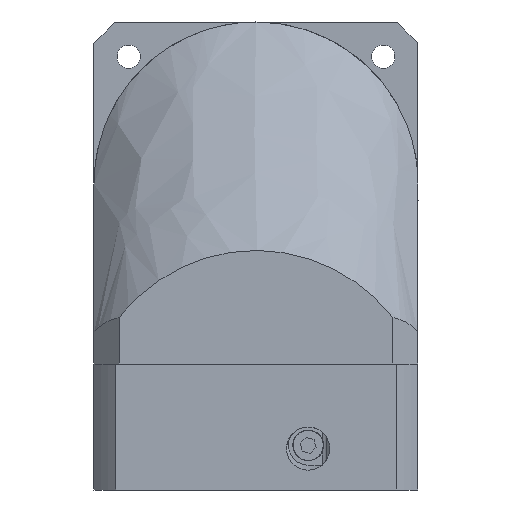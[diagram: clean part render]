
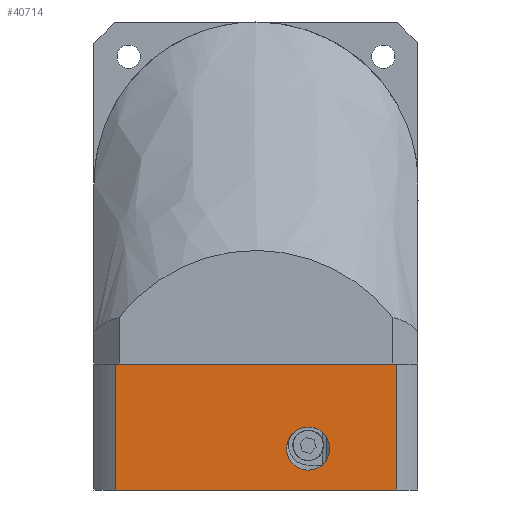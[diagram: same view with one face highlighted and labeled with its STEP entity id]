
A CAD part, front view. The second image highlights one B-rep face of the part: STEP entity #40714.
In plain terms, the highlighted planar face has unit normal (0, -1, 0) as drawn and (0, 0, 1) by its records, which use the part's own axes.
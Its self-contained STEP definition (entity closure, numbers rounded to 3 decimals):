
#288 = VECTOR ( 'NONE', #24166, 1000. ) ;
#3014 = ORIENTED_EDGE ( 'NONE', *, *, #55273, .T. ) ;
#3693 = VERTEX_POINT ( 'NONE', #31562 ) ;
#4830 = ORIENTED_EDGE ( 'NONE', *, *, #16960, .T. ) ;
#5012 = VERTEX_POINT ( 'NONE', #24319 ) ;
#6550 = ORIENTED_EDGE ( 'NONE', *, *, #41621, .T. ) ;
#10558 = AXIS2_PLACEMENT_3D ( 'NONE', #13995, #44140, #18374 ) ;
#11667 = CARTESIAN_POINT ( 'NONE',  ( 59., -38.926, 45. ) ) ;
#13995 = CARTESIAN_POINT ( 'NONE',  ( 11.5, -14.5, 45. ) ) ;
#14429 = LINE ( 'NONE', #20937, #46113 ) ;
#15683 = VERTEX_POINT ( 'NONE', #28309 ) ;
#15703 = VECTOR ( 'NONE', #41840, 1000. ) ;
#16960 = EDGE_CURVE ( 'NONE', #45453, #5012, #49911, .T. ) ;
#18374 = DIRECTION ( 'NONE',  ( 1., 0., 0. ) ) ;
#18619 = CIRCLE ( 'NONE', #33667, 6. ) ;
#20937 = CARTESIAN_POINT ( 'NONE',  ( 59., 38.926, 45. ) ) ;
#21718 = EDGE_CURVE ( 'NONE', #40698, #15683, #32152, .T. ) ;
#21745 = CARTESIAN_POINT ( 'NONE',  ( 11.5, -14.5, 45. ) ) ;
#22044 = DIRECTION ( 'NONE',  ( 1., 0., 0. ) ) ;
#23416 = FACE_BOUND ( 'NONE', #42702, .T. ) ;
#24166 = DIRECTION ( 'NONE',  ( 0., -1., 0. ) ) ;
#24319 = CARTESIAN_POINT ( 'NONE',  ( 5.5, -14.5, 45. ) ) ;
#26097 = DIRECTION ( 'NONE',  ( 1., 0., 0. ) ) ;
#26355 = VERTEX_POINT ( 'NONE', #26797 ) ;
#26797 = CARTESIAN_POINT ( 'NONE',  ( 35., -38.926, 45. ) ) ;
#28309 = CARTESIAN_POINT ( 'NONE',  ( 0., -38.926, 45. ) ) ;
#29826 = LINE ( 'NONE', #35269, #52566 ) ;
#30565 = CARTESIAN_POINT ( 'NONE',  ( 0., 38.926, 45. ) ) ;
#31562 = CARTESIAN_POINT ( 'NONE',  ( 35., 38.926, 45. ) ) ;
#32152 = LINE ( 'NONE', #45607, #288 ) ;
#32328 = EDGE_CURVE ( 'NONE', #26355, #3693, #29826, .T. ) ;
#33667 = AXIS2_PLACEMENT_3D ( 'NONE', #21745, #51781, #26097 ) ;
#35269 = CARTESIAN_POINT ( 'NONE',  ( 35., 59.5, 45. ) ) ;
#35940 = EDGE_LOOP ( 'NONE', ( #3014, #43513, #44629, #40015 ) ) ;
#38255 = FACE_OUTER_BOUND ( 'NONE', #35940, .T. ) ;
#39195 = PLANE ( 'NONE',  #54063 ) ;
#39585 = DIRECTION ( 'NONE',  ( 0., 1., 0. ) ) ;
#40015 = ORIENTED_EDGE ( 'NONE', *, *, #21718, .T. ) ;
#40698 = VERTEX_POINT ( 'NONE', #30565 ) ;
#40714 = ADVANCED_FACE ( 'NONE', ( #38255, #23416 ), #39195, .T. ) ;
#41621 = EDGE_CURVE ( 'NONE', #5012, #45453, #18619, .T. ) ;
#41840 = DIRECTION ( 'NONE',  ( 1., 0., 0. ) ) ;
#42702 = EDGE_LOOP ( 'NONE', ( #4830, #6550 ) ) ;
#43491 = CARTESIAN_POINT ( 'NONE',  ( 59., -45., 45. ) ) ;
#43513 = ORIENTED_EDGE ( 'NONE', *, *, #32328, .T. ) ;
#44140 = DIRECTION ( 'NONE',  ( 0., 0., -1. ) ) ;
#44629 = ORIENTED_EDGE ( 'NONE', *, *, #52229, .T. ) ;
#45453 = VERTEX_POINT ( 'NONE', #46685 ) ;
#45607 = CARTESIAN_POINT ( 'NONE',  ( 0., -45., 45. ) ) ;
#46113 = VECTOR ( 'NONE', #46688, 1000. ) ;
#46685 = CARTESIAN_POINT ( 'NONE',  ( 17.5, -14.5, 45. ) ) ;
#46688 = DIRECTION ( 'NONE',  ( -1., 0., 0. ) ) ;
#47779 = DIRECTION ( 'NONE',  ( 0., 0., 1. ) ) ;
#48688 = LINE ( 'NONE', #11667, #15703 ) ;
#49911 = CIRCLE ( 'NONE', #10558, 6. ) ;
#51781 = DIRECTION ( 'NONE',  ( 0., 0., -1. ) ) ;
#52229 = EDGE_CURVE ( 'NONE', #3693, #40698, #14429, .T. ) ;
#52566 = VECTOR ( 'NONE', #39585, 1000. ) ;
#54063 = AXIS2_PLACEMENT_3D ( 'NONE', #43491, #47779, #22044 ) ;
#55273 = EDGE_CURVE ( 'NONE', #15683, #26355, #48688, .T. ) ;
